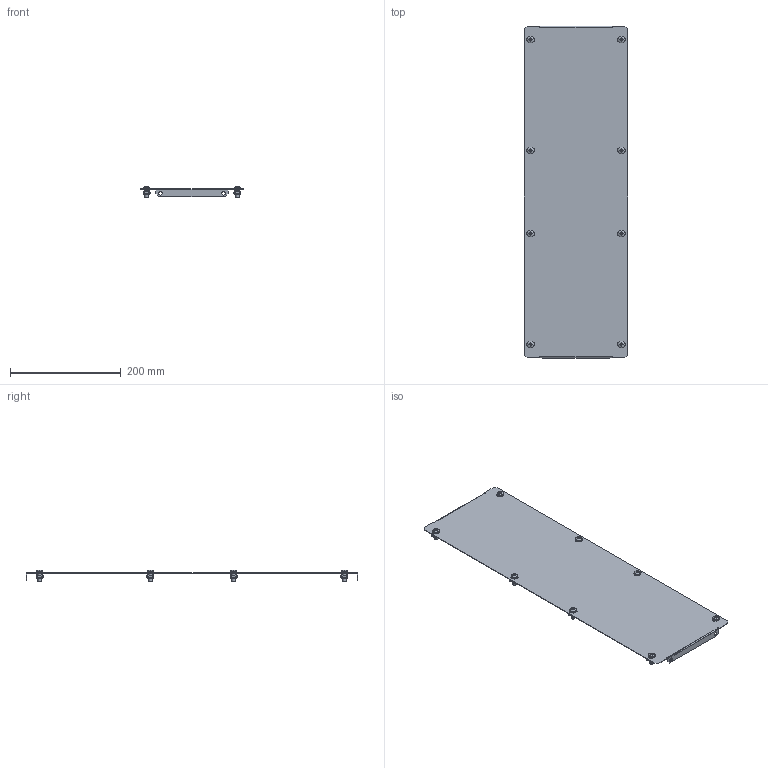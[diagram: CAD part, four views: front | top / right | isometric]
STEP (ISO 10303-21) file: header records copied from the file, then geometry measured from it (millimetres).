
FILE_DESCRIPTION (( 'STEP AP203' ), '1' );
FILE_NAME ('MA1.400.060000.01.00 Ïëàñòðîí Â600 Ø300 EKF AleSta-FP60M300.STEP', '2024-12-02T12:48:29', ( '' ), ( '' ), 'SwSTEP 2.0', 'SolidWorks 2021', '' );
FILE_SCHEMA (( 'CONFIG_CONTROL_DESIGN' ));
Length unit declared in the file: millimetre
Products named in the file (6): Ãàéêà çàêëàäíàÿ; pan head cross recess screw_din_DIN EN ISO 7045 - M6 x 16 - Z - 16N; MA1.400.060000.01.01 Ïëàñòðîí Â50 Ø600 EKF AleSta_  ˜=300; Ãàéêà çàêëàäêàÿ Ì6; Îáîëî÷êà ãàéêè çàêëàäíîé; MA1.400.060000.01.00 Ïëàñòðîí Â600 Ø300 EKF AleSta-FP60M300
Assembly tree (19 placements, depth 3):
  MA1.400.060000.01.00 Ïëàñòðîí Â600 Ø300 EKF AleSta-FP60M300
    MA1.400.060000.01.01 Ïëàñòðîí Â50 Ø600 EKF AleSta_  ˜=300
    Ãàéêà çàêëàäíàÿ  x8
      Îáîëî÷êà ãàéêè çàêëàäíîé
      Ãàéêà çàêëàäêàÿ Ì6
    pan head cross recess screw_din_DIN EN ISO 7045 - M6 x 16 - Z - 16N  x8
Bounding box: 186 x 599 x 20.48 mm (x, y, z)
Volume: 124323.1 mm3; surface area: 244222.7 mm2
Topology: 25 solids, 25 shells, 1330 faces, 2938 edges, 1666 vertices
Faces by surface type: plane 842, cylinder 280, bspline 128, cone 56, torus 16, sphere 8
Full cylindrical faces by diameter (mm): 6 x16, 6.5 x4, 7 x8, 12 x8
Entity records: 8220 total; most frequent: CARTESIAN_POINT 1773, DIRECTION 1122, ORIENTED_EDGE 1096, EDGE_CURVE 548, LINE 384, VECTOR 384, AXIS2_PLACEMENT_3D 369, VERTEX_POINT 332
